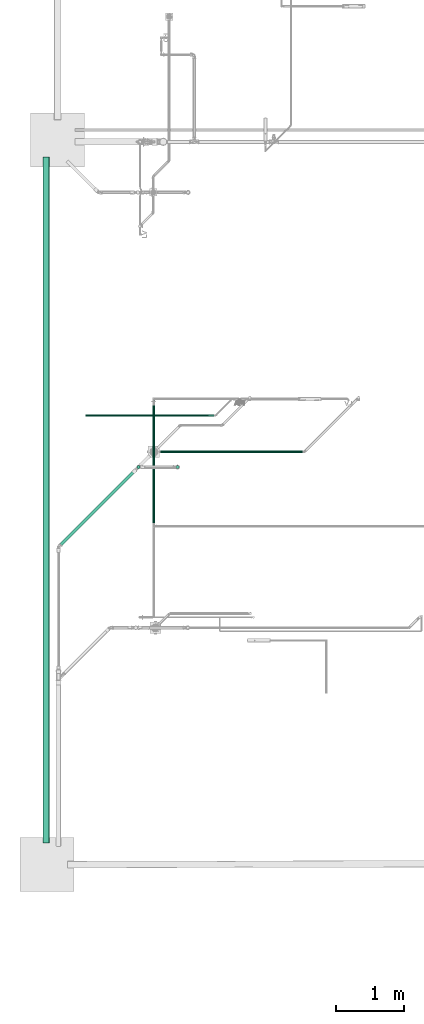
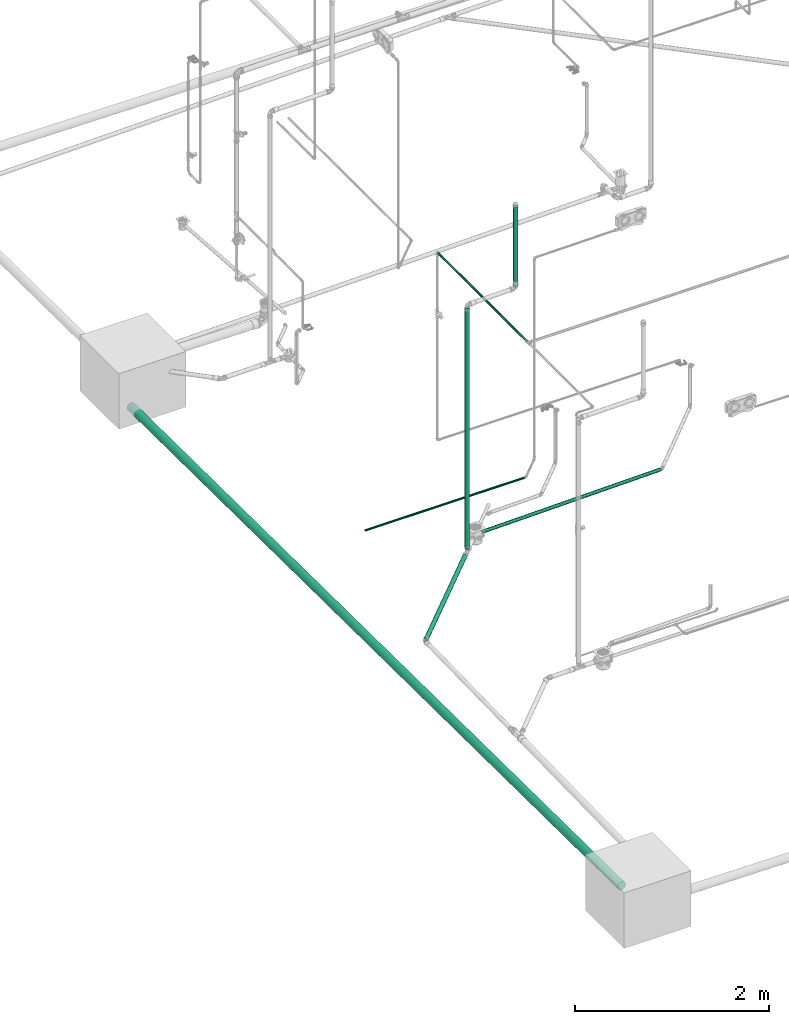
# One storey, part 5 of 589: 7 flow segments.
"""IFC2X3 building model written with IfcOpenShell, lengths in millimetres."""

from ifc_helpers import new_model, entity, si_unit, converted_unit, derived_unit, direction, frame, frame_2d, origin, origin_2d_with_axis, place, context, subcontext, project, spatial, circle, extrude, type_object, element, save


model = new_model("IFC2X3")

# Units and contexts
model_context = context("Model", 3, precision=0.01, world=origin(), true_north=direction((6.123031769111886e-17, 1.0)))
body_context = subcontext(model_context, "Body", "Model", "MODEL_VIEW")
ifc_project = project(units=[si_unit("LENGTHUNIT", "METRE", prefix="MILLI"), si_unit("AREAUNIT", "SQUARE_METRE"), si_unit("VOLUMEUNIT", "CUBIC_METRE"), converted_unit("PLANEANGLEUNIT", "DEGREE", entity("IfcRatioMeasure", 0.017453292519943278), si_unit("PLANEANGLEUNIT", "RADIAN"), dimensions=[0, 0, 0, 0, 0, 0, 0]), si_unit("MASSUNIT", "GRAM", prefix="KILO"), derived_unit("MASSDENSITYUNIT", [(si_unit("MASSUNIT", "GRAM", prefix="KILO"), 1), (si_unit("LENGTHUNIT", "METRE"), -3)]), derived_unit("IONCONCENTRATIONUNIT", [(si_unit("MASSUNIT", "GRAM", prefix="KILO"), 1), (si_unit("LENGTHUNIT", "METRE"), -3)]), derived_unit("MOMENTOFINERTIAUNIT", [(si_unit("LENGTHUNIT", "METRE"), 4)]), si_unit("TIMEUNIT", "SECOND"), si_unit("FREQUENCYUNIT", "HERTZ"), si_unit("THERMODYNAMICTEMPERATUREUNIT", "DEGREE_CELSIUS"), derived_unit("THERMALTRANSMITTANCEUNIT", [(si_unit("MASSUNIT", "GRAM", prefix="KILO"), 1), (si_unit("THERMODYNAMICTEMPERATUREUNIT", "KELVIN"), -1), (si_unit("TIMEUNIT", "SECOND"), -3)]), derived_unit("THERMALCONDUCTANCEUNIT", [(si_unit("MASSUNIT", "GRAM", prefix="KILO"), 1), (si_unit("THERMODYNAMICTEMPERATUREUNIT", "KELVIN"), -1), (si_unit("TIMEUNIT", "SECOND"), -3), (si_unit("LENGTHUNIT", "METRE"), 1)]), derived_unit("VOLUMETRICFLOWRATEUNIT", [(si_unit("LENGTHUNIT", "METRE"), 3), (si_unit("TIMEUNIT", "SECOND"), -1)]), derived_unit("MASSFLOWRATEUNIT", [(si_unit("MASSUNIT", "GRAM", prefix="KILO"), 1), (si_unit("TIMEUNIT", "SECOND"), -1)]), derived_unit("ROTATIONALFREQUENCYUNIT", [(si_unit("TIMEUNIT", "SECOND"), -1)]), si_unit("ELECTRICCURRENTUNIT", "AMPERE"), si_unit("ELECTRICVOLTAGEUNIT", "VOLT"), si_unit("POWERUNIT", "WATT"), si_unit("FORCEUNIT", "NEWTON", prefix="KILO"), si_unit("ILLUMINANCEUNIT", "LUX"), si_unit("LUMINOUSFLUXUNIT", "LUMEN"), si_unit("LUMINOUSINTENSITYUNIT", "CANDELA"), derived_unit("USERDEFINED", [(si_unit("MASSUNIT", "GRAM", prefix="KILO"), -1), (si_unit("LENGTHUNIT", "METRE"), -2), (si_unit("TIMEUNIT", "SECOND"), 3), (si_unit("LUMINOUSFLUXUNIT", "LUMEN"), 1)]), derived_unit("USERDEFINED", [(si_unit("MASSUNIT", "GRAM", prefix="KILO"), 1), (si_unit("TIMEUNIT", "SECOND"), -3), (si_unit("LENGTHUNIT", "METRE"), 3), (si_unit("ELECTRICCURRENTUNIT", "AMPERE"), -2)]), derived_unit("SOUNDPOWERUNIT", [(si_unit("MASSUNIT", "GRAM", prefix="KILO"), 1), (si_unit("TIMEUNIT", "SECOND"), -3), (si_unit("LENGTHUNIT", "METRE"), 2)]), derived_unit("SOUNDPRESSUREUNIT", [(si_unit("MASSUNIT", "GRAM", prefix="KILO"), 1), (si_unit("LENGTHUNIT", "METRE"), -1), (si_unit("TIMEUNIT", "SECOND"), -2)]), derived_unit("LINEARVELOCITYUNIT", [(si_unit("LENGTHUNIT", "METRE"), 1), (si_unit("TIMEUNIT", "SECOND"), -1)]), si_unit("PRESSUREUNIT", "PASCAL"), derived_unit("USERDEFINED", [(si_unit("MASSUNIT", "GRAM", prefix="KILO"), 1), (si_unit("LENGTHUNIT", "METRE"), -2), (si_unit("TIMEUNIT", "SECOND"), -2)]), derived_unit("LINEARFORCEUNIT", [(si_unit("MASSUNIT", "GRAM", prefix="KILO"), 1), (si_unit("TIMEUNIT", "SECOND"), -2)]), derived_unit("PLANARFORCEUNIT", [(si_unit("MASSUNIT", "GRAM", prefix="KILO"), 1), (si_unit("LENGTHUNIT", "METRE"), -1), (si_unit("TIMEUNIT", "SECOND"), -2)]), derived_unit("SPECIFICHEATCAPACITYUNIT", [(si_unit("THERMODYNAMICTEMPERATUREUNIT", "KELVIN"), -1), (si_unit("LENGTHUNIT", "METRE"), 2), (si_unit("TIMEUNIT", "SECOND"), -2)]), derived_unit("HEATINGVALUEUNIT", [(si_unit("LENGTHUNIT", "METRE"), 2), (si_unit("TIMEUNIT", "SECOND"), -2)]), derived_unit("VAPORPERMEABILITYUNIT", [(si_unit("LENGTHUNIT", "METRE"), -1), (si_unit("TIMEUNIT", "SECOND"), 1)]), derived_unit("DYNAMICVISCOSITYUNIT", [(si_unit("MASSUNIT", "GRAM", prefix="KILO"), 1), (si_unit("TIMEUNIT", "SECOND"), -1), (si_unit("LENGTHUNIT", "METRE"), -1)]), derived_unit("THERMALEXPANSIONCOEFFICIENTUNIT", [(si_unit("THERMODYNAMICTEMPERATUREUNIT", "KELVIN"), -1)]), derived_unit("MODULUSOFELASTICITYUNIT", [(si_unit("MASSUNIT", "GRAM", prefix="KILO"), 1), (si_unit("LENGTHUNIT", "METRE"), -1), (si_unit("TIMEUNIT", "SECOND"), -2)]), derived_unit("ISOTHERMALMOISTURECAPACITYUNIT", [(si_unit("LENGTHUNIT", "METRE"), 3), (si_unit("MASSUNIT", "GRAM", prefix="KILO"), -1)]), derived_unit("MOISTUREDIFFUSIVITYUNIT", [(si_unit("TIMEUNIT", "SECOND"), -1), (si_unit("LENGTHUNIT", "METRE"), 2)])], contexts=[model_context])

# Site, building, storey
site_placement = place(None, origin())
site = spatial("IfcSite", under=ifc_project, at=site_placement, Name="Default", CompositionType="ELEMENT")
building_placement = place(site_placement, origin())
building = spatial("IfcBuilding", under=site, at=building_placement, CompositionType="ELEMENT")
storey_placement = place(building_placement, frame((0.0, 0.0, 100.0)))
storey = spatial("IfcBuildingStorey", under=building, at=storey_placement, Name="TÉRREO", CompositionType="ELEMENT", Elevation=100.0)

# Flow segments
pipe_segment_type_1 = type_object("IfcPipeSegmentType", Name="Tipos de tubos:PVC Esgoto Série Normal", PredefinedType="NOTDEFINED")
flow_segment_1_placement = place(storey_placement, origin())
element("IfcFlowSegment", 1, at=flow_segment_1_placement, inside=storey, type_object=pipe_segment_type_1, Name="Tipos de tubos:PVC Esgoto Série Normal", ObjectType="Tipos de tubos:PVC Esgoto Série Normal", context=body_context, shape_type="SweptSolid", body=[
    extrude(circle(Radius=20.0, at=frame_2d((0.0, -1.6916415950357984e-14), x_axis=(1.0, 0.0))), frame((-7281.252601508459, -5104.329409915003, -109.95070554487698), z_axis=(0.999800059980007, 0.0, 0.019996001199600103), x_axis=(0.0, 1.0, 0.0)), (0.0, 0.0, 1.0), 2131.7996311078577),
])
flow_segment_2_placement = place(storey_placement, origin())
element("IfcFlowSegment", 2, at=flow_segment_2_placement, inside=storey, type_object=pipe_segment_type_1, Name="Tipos de tubos:PVC Esgoto Série Normal", ObjectType="Tipos de tubos:PVC Esgoto Série Normal", context=body_context, shape_type="SweptSolid", body=[
    extrude(circle(Radius=50.0, at=frame_2d((1.0828671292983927e-12, -6.226174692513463e-14), x_axis=(1.0, 0.0))), frame((-8948.651792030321, -755.2025985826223, -584.7462231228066), z_axis=(0.0, -0.9999500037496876, 0.00999950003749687), x_axis=(1.0, 0.0, 0.0)), (0.0, 0.0, 1.0), 10121.7266026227),
])
flow_segment_3_placement = place(storey_placement, origin())
element("IfcFlowSegment", 3, at=flow_segment_3_placement, inside=storey, type_object=pipe_segment_type_1, Name="Tipos de tubos:PVC Esgoto Série Normal", ObjectType="Tipos de tubos:PVC Esgoto Série Normal", context=body_context, shape_type="SweptSolid", body=[
    extrude(circle(Radius=25.0, at=frame_2d((0.0, -1.082867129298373e-12), x_axis=(1.0, 0.0))), frame((-7586.991613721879, -5330.071546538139, -72.97259530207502), z_axis=(-1.9223020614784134e-07, 1.922302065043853e-07, 1.0), x_axis=(-1.0, 0.0, -1.9223020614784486e-07)), (0.0, 0.0, 1.0), 3037.120912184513),
])
flow_segment_4_placement = place(storey_placement, origin())
element("IfcFlowSegment", 4, at=flow_segment_4_placement, inside=storey, type_object=pipe_segment_type_1, Name="Tipos de tubos:PVC Esgoto Série Normal", ObjectType="Tipos de tubos:PVC Esgoto Série Normal", context=body_context, shape_type="SweptSolid", body=[
    extrude(circle(Radius=25.0, at=frame_2d((0.0, -2.1149748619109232e-14), x_axis=(1.0, 0.0))), frame((-8756.82263293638, -6499.999441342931, -109.95070554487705), z_axis=(0.7071067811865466, 0.7071067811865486, 0.0), x_axis=(-0.7071067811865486, 0.7071067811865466, 0.0)), (0.0, 0.0, 1.0), 1568.5593944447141),
])
flow_segment_5_placement = place(storey_placement, origin())
element("IfcFlowSegment", 5, at=flow_segment_5_placement, inside=storey, type_object=pipe_segment_type_1, Name="Tipos de tubos:PVC Esgoto Série Normal", ObjectType="Tipos de tubos:PVC Esgoto Série Normal", context=body_context, shape_type="SweptSolid", body=[
    extrude(circle(Radius=25.0, at=origin_2d_with_axis()), frame((-7009.240981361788, -5330.070962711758, 3037.0737401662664), z_axis=(0.0, 0.0, 1.0), x_axis=(-1.0, 0.0, 0.0)), (0.0, 0.0, 1.0), 1003.2148005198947),
])
pipe_segment_type_2 = type_object("IfcPipeSegmentType", Name="Tipos de tubos:PVC Marrom Soldável", PredefinedType="NOTDEFINED")
flow_segment_6_placement = place(storey_placement, origin())
element("IfcFlowSegment", 6, at=flow_segment_6_placement, inside=storey, type_object=pipe_segment_type_2, Name="Tipos de tubos:PVC Marrom Soldável", ObjectType="Tipos de tubos:PVC Marrom Soldável", context=body_context, shape_type="SweptSolid", body=[
    extrude(circle(Radius=12.5, at=frame_2d((0.0, -5.414335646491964e-13), x_axis=(1.0, 0.0))), frame((-7362.272959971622, -6178.225782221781, 2970.0), z_axis=(0.0, 1.0, 0.0), x_axis=(1.0, 0.0, 0.0)), (0.0, 0.0, 1.0), 1840.699999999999),
])
flow_segment_7_placement = place(storey_placement, origin())
element("IfcFlowSegment", 7, at=flow_segment_7_placement, inside=storey, type_object=pipe_segment_type_2, Name="Tipos de tubos:PVC Marrom Soldável", ObjectType="Tipos de tubos:PVC Marrom Soldável", context=body_context, shape_type="SweptSolid", body=[
    extrude(circle(Radius=12.5, at=frame_2d((-3.2486013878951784e-12, -8.459899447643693e-15), x_axis=(1.0, 0.0))), frame((-8363.858292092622, -4568.0420845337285, -37.35213229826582), z_axis=(1.0, 0.0, 0.0), x_axis=(0.0, 1.0, 0.0)), (0.0, 0.0, 1.0), 1907.8311161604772),
])

save(model, "model.ifc")
